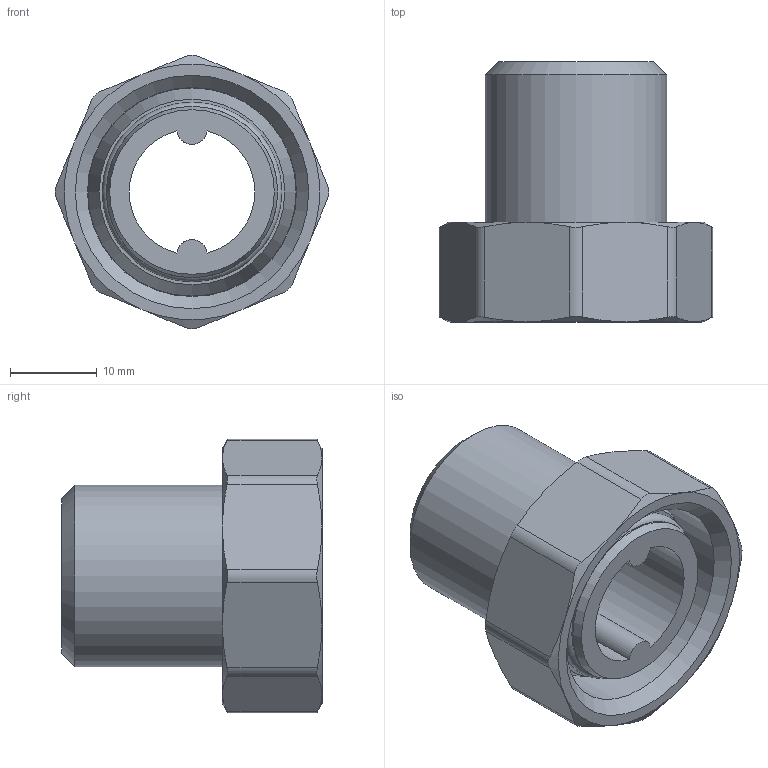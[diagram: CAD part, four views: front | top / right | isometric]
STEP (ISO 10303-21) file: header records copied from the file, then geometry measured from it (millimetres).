
FILE_DESCRIPTION(('STEP AP203'), '1');
FILE_NAME('覆.302612.023.000 捘 - VTr.015.N.04', '2024-06-20T10:33:43', ('Boss'), (''), 'C3D Converter', 'C3D Toolkit', '');
FILE_SCHEMA(('CONFIG_CONTROL_DESIGN'));
Length unit declared in the file: millimetre
Products named in the file (1): ВР.302612.023.000 СБ
Bounding box: 31.6 x 30 x 31.6 mm (x, y, z)
Volume: 8262.8 mm3; surface area: 6277.8 mm2
Topology: 1 solids, 1 shells, 178 faces, 466 edges, 303 vertices
Faces by surface type: extrusion 71, plane 63, cone 23, cylinder 17, torus 4
Full cylindrical faces by diameter (mm): 15 x1, 20.955 x1, 22.2 x1, 24 x1, 24.118 x1
Entity records: 6553 total; most frequent: CARTESIAN_POINT 2560, ORIENTED_EDGE 896, DIRECTION 588, EDGE_CURVE 448, VERTEX_POINT 302, VECTOR 282, B_SPLINE_CURVE_WITH_KNOTS 262, LINE 211
